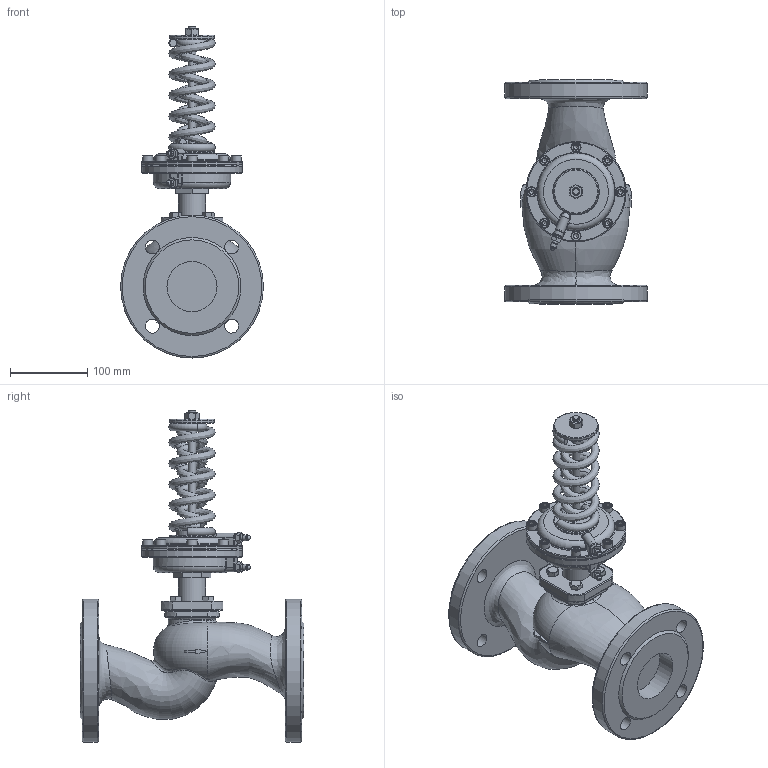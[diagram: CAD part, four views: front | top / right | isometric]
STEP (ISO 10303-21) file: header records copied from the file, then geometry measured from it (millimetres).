
FILE_DESCRIPTION(('STEP AP203'), '1');
FILE_NAME('Ðåãóëÿòîðû ïåðåïàäà äàâëåíèÿ ÐÄÒ Äó65', '', ('UNSPECIFIED'), ('UNSPECIFIED'), 'ASCON STEP Converter 1.6', 'ASCON Math Kernel', '');
FILE_SCHEMA(('CONFIG_CONTROL_DESIGN'));
Length unit declared in the file: millimetre
Products named in the file (1): -07
Bounding box: 185 x 290 x 430 mm (x, y, z)
Volume: 3585618.8 mm3; surface area: 361587.8 mm2
Topology: 23 solids, 23 shells, 562 faces, 1211 edges, 719 vertices
Faces by surface type: plane 264, cylinder 117, cone 86, bspline 52, torus 38, sphere 4, revolution 1
Full cylindrical faces by diameter (mm): 1.7 x2, 2.7 x4, 6 x18, 6.5 x4, 8 x10, 8.5 x4, 8.917 x1, 10 x8, 13 x8, 14 x4, 18 x8, 35 x1, 40 x2, 58 x2, 65 x2, 130 x2, 185 x2
Entity records: 48908 total; most frequent: CARTESIAN_POINT 33174, DIRECTION 2205, ORIENTED_EDGE 2024, EDGE_CURVE 1012, AXIS2_PLACEMENT_3D 933, EDGE_LOOP 815, VERTEX_POINT 706, COLOUR_RGB 585
